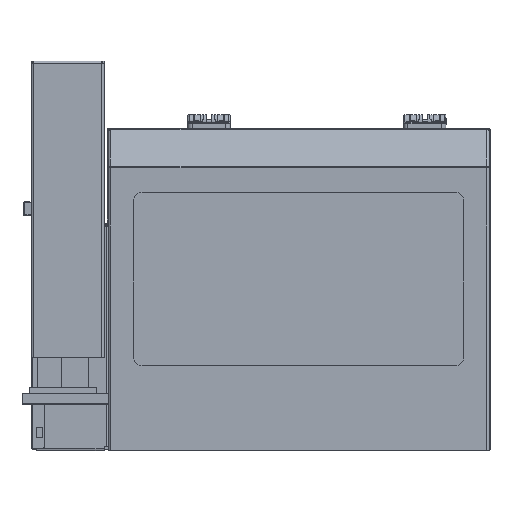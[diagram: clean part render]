
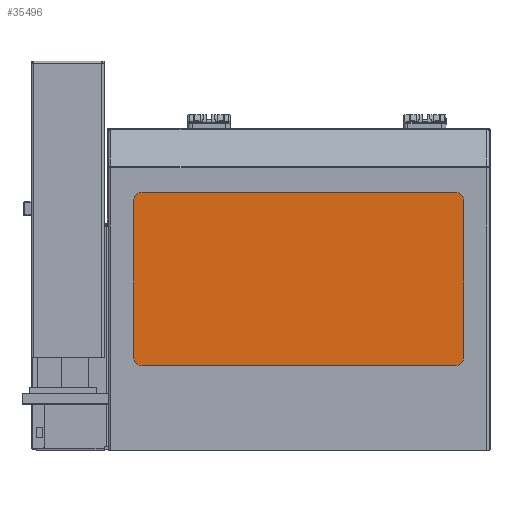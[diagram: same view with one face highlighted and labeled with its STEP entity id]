
A CAD part, top view. The second image highlights one B-rep face of the part: STEP entity #35496.
In plain terms, the highlighted planar face has unit normal (0, 0, 1).
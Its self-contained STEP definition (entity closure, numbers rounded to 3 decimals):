
#1974 = CARTESIAN_POINT ( 'NONE',  ( 335.482, 87.622, 168. ) ) ;
#3659 = VECTOR ( 'NONE', #49724, 1000. ) ;
#5576 = VECTOR ( 'NONE', #36501, 1000. ) ;
#7655 = CARTESIAN_POINT ( 'NONE',  ( -67.616, 87.622, 168. ) ) ;
#9479 = VERTEX_POINT ( 'NONE', #56646 ) ;
#12010 = LINE ( 'NONE', #31312, #5576 ) ;
#13185 = CARTESIAN_POINT ( 'NONE',  ( -67.616, 87.622, 168. ) ) ;
#14162 = DIRECTION ( 'NONE',  ( 1., 0., 0. ) ) ;
#15538 = CARTESIAN_POINT ( 'NONE',  ( 133.933, 317.048, 168. ) ) ;
#17504 = CARTESIAN_POINT ( 'NONE',  ( 133.933, 87.622, 168. ) ) ;
#17993 = EDGE_CURVE ( 'NONE', #9479, #63153, #23208, .T. ) ;
#19980 = VECTOR ( 'NONE', #14162, 1000. ) ;
#21533 = EDGE_CURVE ( 'NONE', #50763, #9479, #25655, .T. ) ;
#22280 = ORIENTED_EDGE ( 'NONE', *, *, #58507, .F. ) ;
#23208 = LINE ( 'NONE', #15538, #19980 ) ;
#25655 = LINE ( 'NONE', #38220, #26418 ) ;
#26418 = VECTOR ( 'NONE', #33483, 1000. ) ;
#28584 = EDGE_LOOP ( 'NONE', ( #60793, #38632, #22280, #37026 ) ) ;
#31312 = CARTESIAN_POINT ( 'NONE',  ( 335.482, 202.335, 168. ) ) ;
#33483 = DIRECTION ( 'NONE',  ( 0., 1., 0. ) ) ;
#34408 = CARTESIAN_POINT ( 'NONE',  ( 335.482, 317.048, 168. ) ) ;
#35496 = ADVANCED_FACE ( 'NONE', ( #65131 ), #43488, .F. ) ;
#36501 = DIRECTION ( 'NONE',  ( 0., 1., 0. ) ) ;
#37026 = ORIENTED_EDGE ( 'NONE', *, *, #43459, .T. ) ;
#37900 = VERTEX_POINT ( 'NONE', #1974 ) ;
#37947 = AXIS2_PLACEMENT_3D ( 'NONE', #7655, #44147, #38972 ) ;
#38220 = CARTESIAN_POINT ( 'NONE',  ( -67.616, 202.335, 168. ) ) ;
#38632 = ORIENTED_EDGE ( 'NONE', *, *, #21533, .F. ) ;
#38972 = DIRECTION ( 'NONE',  ( 0., 1., 0. ) ) ;
#43459 = EDGE_CURVE ( 'NONE', #37900, #63153, #12010, .T. ) ;
#43488 = PLANE ( 'NONE',  #37947 ) ;
#44147 = DIRECTION ( 'NONE',  ( 0., 0., -1. ) ) ;
#49724 = DIRECTION ( 'NONE',  ( -1., 0., 0. ) ) ;
#50763 = VERTEX_POINT ( 'NONE', #13185 ) ;
#56646 = CARTESIAN_POINT ( 'NONE',  ( -67.616, 317.048, 168. ) ) ;
#58507 = EDGE_CURVE ( 'NONE', #37900, #50763, #63281, .T. ) ;
#60793 = ORIENTED_EDGE ( 'NONE', *, *, #17993, .F. ) ;
#63153 = VERTEX_POINT ( 'NONE', #34408 ) ;
#63281 = LINE ( 'NONE', #17504, #3659 ) ;
#65131 = FACE_OUTER_BOUND ( 'NONE', #28584, .T. ) ;
